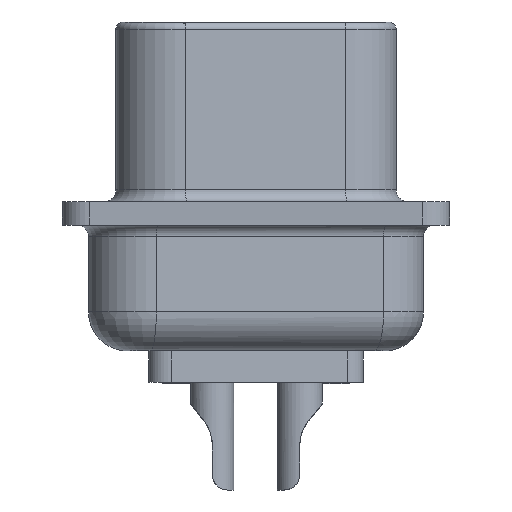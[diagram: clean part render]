
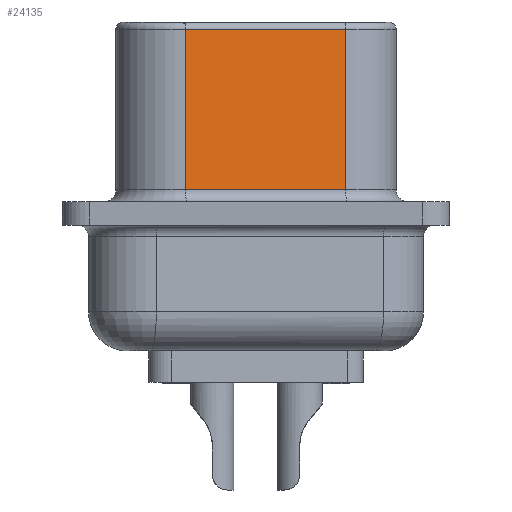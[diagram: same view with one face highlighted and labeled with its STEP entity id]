
A CAD part, left-side view. The second image highlights one B-rep face of the part: STEP entity #24135.
In plain terms, the highlighted planar face has unit normal (-0.987, -0.159, 0).
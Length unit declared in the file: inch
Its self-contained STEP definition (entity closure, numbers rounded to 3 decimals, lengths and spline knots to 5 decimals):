
#693 = EDGE_CURVE ( 'NONE', #30019, #8180, #28018, .T. ) ;
#777 = CARTESIAN_POINT ( 'NONE',  ( 0.29369, 0.13326, 0.23 ) ) ;
#1339 = DIRECTION ( 'NONE',  ( 0., 0., -1. ) ) ;
#3666 = DIRECTION ( 'NONE',  ( -0.159, 0.987, 0. ) ) ;
#3869 = ORIENTED_EDGE ( 'NONE', *, *, #6732, .T. ) ;
#4162 = DIRECTION ( 'NONE',  ( 0., 0., -1. ) ) ;
#4281 = VERTEX_POINT ( 'NONE', #6849 ) ;
#5443 = FACE_OUTER_BOUND ( 'NONE', #25063, .T. ) ;
#5541 = LINE ( 'NONE', #24901, #12887 ) ;
#6732 = EDGE_CURVE ( 'NONE', #8761, #8180, #18171, .T. ) ;
#6849 = CARTESIAN_POINT ( 'NONE',  ( 0.26069, 0.33826, 0.22 ) ) ;
#8180 = VERTEX_POINT ( 'NONE', #9269 ) ;
#8761 = VERTEX_POINT ( 'NONE', #12916 ) ;
#9269 = CARTESIAN_POINT ( 'NONE',  ( 0.29369, 0.13326, 0.015 ) ) ;
#10409 = ORIENTED_EDGE ( 'NONE', *, *, #17858, .T. ) ;
#10423 = CARTESIAN_POINT ( 'NONE',  ( 0.29369, 0.13326, 0.22 ) ) ;
#11394 = EDGE_CURVE ( 'NONE', #4281, #8761, #24902, .T. ) ;
#11964 = VECTOR ( 'NONE', #1339, 39.37008 ) ;
#12566 = PLANE ( 'NONE',  #20866 ) ;
#12887 = VECTOR ( 'NONE', #3666, 39.37008 ) ;
#12916 = CARTESIAN_POINT ( 'NONE',  ( 0.26069, 0.33826, 0.015 ) ) ;
#17858 = EDGE_CURVE ( 'NONE', #30019, #4281, #5541, .T. ) ;
#18171 = LINE ( 'NONE', #22512, #24187 ) ;
#18486 = DIRECTION ( 'NONE',  ( 0.159, -0.987, 0. ) ) ;
#20866 = AXIS2_PLACEMENT_3D ( 'NONE', #777, #22025, #29167 ) ;
#21046 = ORIENTED_EDGE ( 'NONE', *, *, #693, .F. ) ;
#22025 = DIRECTION ( 'NONE',  ( 0.987, 0.159, 0. ) ) ;
#22512 = CARTESIAN_POINT ( 'NONE',  ( 0.29369, 0.13326, 0.015 ) ) ;
#22570 = CARTESIAN_POINT ( 'NONE',  ( 0.26069, 0.33826, 0.23 ) ) ;
#23965 = ORIENTED_EDGE ( 'NONE', *, *, #11394, .T. ) ;
#24135 = ADVANCED_FACE ( 'NONE', ( #5443 ), #12566, .F. ) ;
#24187 = VECTOR ( 'NONE', #18486, 39.37008 ) ;
#24901 = CARTESIAN_POINT ( 'NONE',  ( 0.29369, 0.13326, 0.22 ) ) ;
#24902 = LINE ( 'NONE', #22570, #11964 ) ;
#25063 = EDGE_LOOP ( 'NONE', ( #23965, #3869, #21046, #10409 ) ) ;
#28018 = LINE ( 'NONE', #30368, #29588 ) ;
#29167 = DIRECTION ( 'NONE',  ( -0.159, 0.987, 0. ) ) ;
#29588 = VECTOR ( 'NONE', #4162, 39.37008 ) ;
#30019 = VERTEX_POINT ( 'NONE', #10423 ) ;
#30368 = CARTESIAN_POINT ( 'NONE',  ( 0.29369, 0.13326, 0.23 ) ) ;
